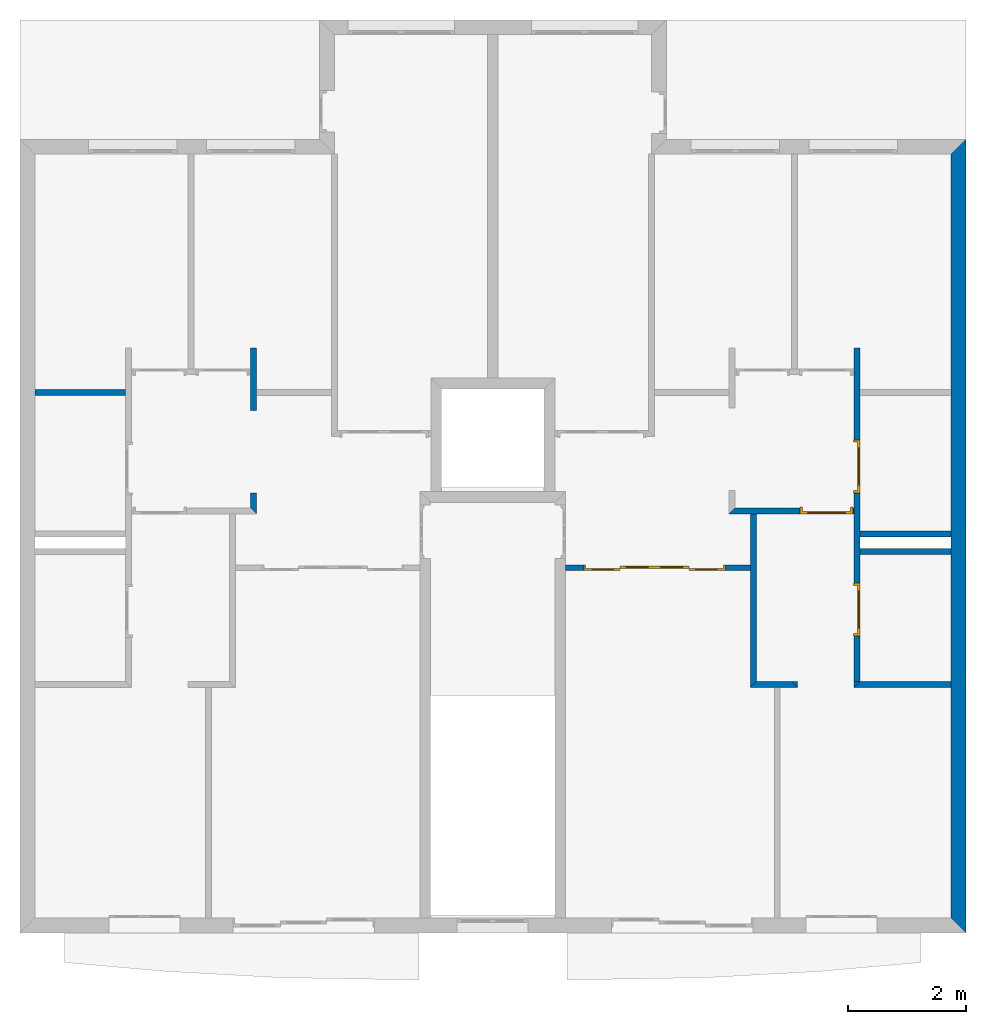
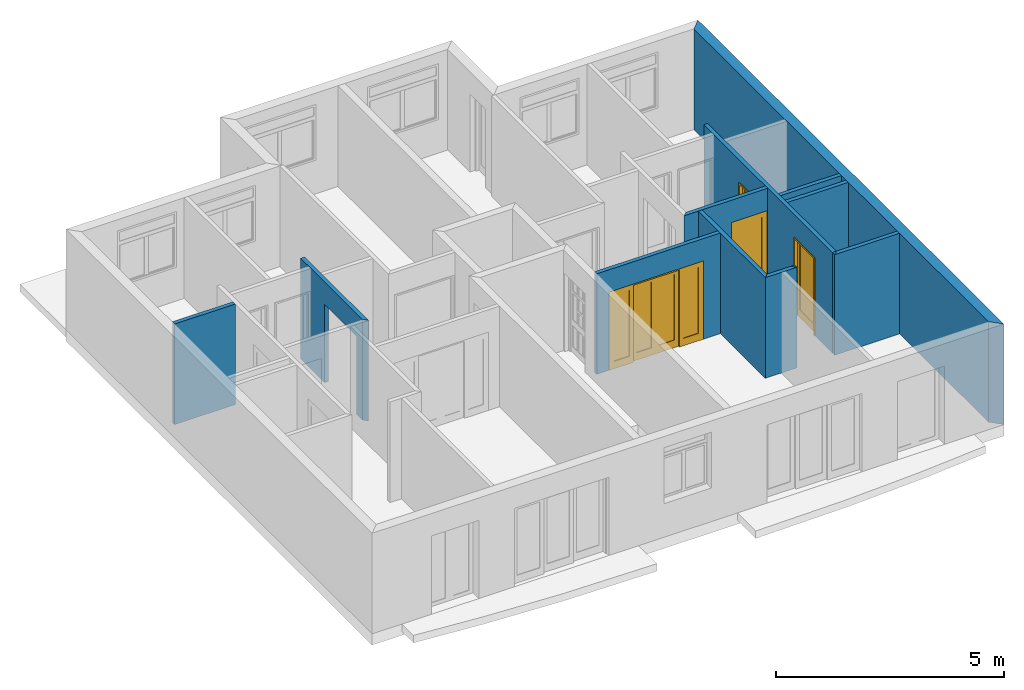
# One storey, part 8 of 12: 13 walls, 4 doors, 5 openings.
"""IFC2X3 building model written with IfcOpenShell, lengths in metres."""

from ifc_helpers import new_model, entity, si_unit, converted_unit, direction, frame, frame_2d, origin_with_axes, place, context, project, spatial, polyline, rectangle, outline, extrude, faceted_brep, source, transform, mapped, material, layer, layer_set, layer_usage, type_object, element, fill, save


model = new_model("IFC2X3")

# Units and contexts
context_of_model = context(None, 3, precision=1e-05, world=origin_with_axes(), true_north=direction((6.123234e-17, 1.0)))
plan_context = context("Plan", 3, precision=1e-05, world=origin_with_axes(), true_north=direction((6.123234e-17, 1.0)))
model_context = context("Model", 3, precision=1e-05, world=origin_with_axes(), true_north=direction((6.123234e-17, 1.0)))
ifc_project = project(units=[si_unit("LENGTHUNIT", "METRE"), si_unit("AREAUNIT", "SQUARE_METRE"), si_unit("VOLUMEUNIT", "CUBIC_METRE"), converted_unit("PLANEANGLEUNIT", "DEGREE", entity("IfcPlaneAngleMeasure", 0.017453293), si_unit("PLANEANGLEUNIT", "RADIAN"), dimensions=[0, 0, 0, 0, 0, 0, 0]), si_unit("SOLIDANGLEUNIT", "STERADIAN"), si_unit("MASSUNIT", "GRAM"), si_unit("TIMEUNIT", "SECOND"), si_unit("THERMODYNAMICTEMPERATUREUNIT", "DEGREE_CELSIUS"), si_unit("LUMINOUSINTENSITYUNIT", "LUMEN")], contexts=[context_of_model, plan_context, model_context])

# Site, building, storey
site_placement = place(None, origin_with_axes())
site = spatial("IfcSite", under=ifc_project, at=site_placement, Name="Por defecto Sitio", CompositionType="ELEMENT")
building_placement = place(site_placement, origin_with_axes())
building = spatial("IfcBuilding", under=site, at=building_placement, Name="Por defecto Edificio", CompositionType="ELEMENT")
storey_placement = place(building_placement, frame((0.0, 0.0, 10.2), z_axis=(0.0, 0.0, 1.0), x_axis=(1.0, 0.0, 0.0)))
storey = spatial("IfcBuildingStorey", under=building, at=storey_placement, Name="Tercera", CompositionType="ELEMENT", Elevation=10.2)

# Wall
ifc_material_1 = material(Name="Doble 1:4")
ifc_layer_1 = layer(ifc_material_1, 0.25, ventilated="UNKNOWN")
ifc_layer_set_1 = layer_set([ifc_layer_1], Name="Doble 1:4")
ifc_layer_usage_1 = layer_usage(ifc_layer_set_1, "AXIS2", "NEGATIVE", 0.0)
wall_type_1 = type_object("IfcWallType", Name="Doble 1:4", PredefinedType="NOTDEFINED")
wall_1_placement = place(storey_placement, frame((16.03417, 13.449173, 0.0), z_axis=(0.0, 0.0, 1.0), x_axis=(-2.1396841e-14, -1.0, 0.0)))
element("IfcWallStandardCase", 1, at=wall_1_placement, inside=storey, type_object=wall_type_1, material=ifc_layer_usage_1, Name="Muro-017", context=context_of_model, shape_type="SweptSolid", body=[
    extrude(outline(polyline([(0.25, -0.25), (13.199173, -0.25), (13.449173, 0.0), (0.0, 0.0), (0.25, -0.25)])), origin_with_axes(), (0.0, 0.0, 1.0), 2.7),
])

# Wall, opening, door
ifc_material_2 = material(Name="Ladrillo común")
ifc_layer_2 = layer(ifc_material_2, 0.1, ventilated="UNKNOWN")
ifc_layer_set_2 = layer_set([ifc_layer_2], Name="Ladrillo común")
ifc_layer_usage_2 = layer_usage(ifc_layer_set_2, "AXIS2", "NEGATIVE", 0.05)
wall_type_2 = type_object("IfcWallType", Name="Ladrillo común", PredefinedType="NOTDEFINED")
wall_2_placement = place(storey_placement, frame((12.379835, 6.1881579, 0.0), z_axis=(0.0, 0.0, 1.0), x_axis=(-1.0, 0.0, 0.0)))
wall_2 = element("IfcWallStandardCase", 2, at=wall_2_placement, inside=storey, type_object=wall_type_2, material=ifc_layer_usage_2, Name="Muro-028", context=context_of_model, shape_type="SweptSolid", body=[
    extrude(outline(polyline([(0.0, -0.05), (3.1306649, -0.05), (3.1306649, 0.05), (0.0, 0.05), (0.0, -0.05)])), origin_with_axes(), (0.0, 0.0, 1.0), 2.7),
])
opening_1_placement = place(wall_2_placement, frame((1.6239004, -0.05, 0.0), z_axis=(0.0, 0.0, 1.0), x_axis=(1.0, 0.0, 0.0)))
opening_1 = element("IfcOpeningElement", 3, at=opening_1_placement, cuts=wall_2, ObjectType="Opening", context=model_context, shape_type="SweptSolid", body=[
    extrude(rectangle(XDim=2.4, YDim=2.1, at=frame_2d((0.0, 1.05), x_axis=(1.0, 0.0))), frame((0.0, 0.0, 0.0), z_axis=(0.0, 1.0, 0.0), x_axis=(-1.0, 0.0, 0.0)), (0.0, 0.0, 1.0), 0.1),
])
door_style_1 = type_object("IfcDoorStyle", Name="P4 Corredera 12", ConstructionType="NOTDEFINED", OperationType="DOUBLE_DOOR_SLIDING", ParameterTakesPrecedence=False, Sizeable=False)
shared_shape_1 = source(origin_with_axes(), model_context, "Body", "Brep", [
    faceted_brep([(2.368, 0.1, 0.0), (2.368, -8.8817842e-16, 0.0), (2.368, 0.0, 2.068), (2.368, 0.1, 2.068), (2.4, 0.1, 0.0), (2.4, -8.8817842e-16, 0.0), (2.4, 0.0, 2.068), (2.4, 0.1, 2.068)], [[[0, 1, 2, 3]], [[4, 5, 1, 0]], [[1, 5, 6, 2]], [[3, 2, 6, 7]], [[0, 3, 7, 4]], [[7, 6, 5, 4]]]),
    faceted_brep([(0.0, 0.1, 0.0), (0.0, 0.0, 0.0), (0.0, 0.0, 2.068), (0.0, 0.1, 2.068), (0.032, 0.1, 0.0), (0.032, 0.0, 0.0), (0.032, 0.0, 2.068), (0.032, 0.1, 2.068)], [[[0, 1, 2, 3]], [[4, 5, 1, 0]], [[1, 5, 6, 2]], [[3, 2, 6, 7]], [[0, 3, 7, 4]], [[7, 6, 5, 4]]]),
    faceted_brep([(2.4, 0.1, 2.1), (2.4, 0.0, 2.1), (2.4, 0.0, 2.068), (2.4, 0.1, 2.068), (0.0, 0.1, 2.1), (0.0, 0.0, 2.1), (0.0, 0.0, 2.068), (0.032, 0.0, 2.068), (2.368, 0.0, 2.068), (2.368, 0.1, 2.068), (0.032, 0.1, 2.068), (0.0, 0.1, 2.068)], [[[0, 1, 2, 3]], [[4, 5, 1, 0]], [[1, 5, 6, 7, 8, 2]], [[3, 2, 8, 9]], [[0, 3, 9, 10, 11, 4]], [[11, 6, 5, 4]], [[10, 7, 6, 11]], [[9, 8, 7, 10]]]),
    faceted_brep([(0.032, 0.1, 0.2), (0.132, 0.1, 0.2), (0.132, 0.06, 0.2), (0.032, 0.06, 0.2), (0.032, 0.1, 1.968), (0.132, 0.1, 1.968), (0.132, 0.06, 1.968), (0.032, 0.06, 1.968)], [[[0, 1, 2, 3]], [[0, 4, 5, 1]], [[1, 5, 6, 2]], [[3, 2, 6, 7]], [[4, 0, 3, 7]], [[5, 4, 7, 6]]]),
    faceted_brep([(0.616, 0.1, 0.2), (0.616, 0.1, 1.968), (0.616, 0.06, 1.968), (0.616, 0.06, 0.2), (0.516, 0.1, 0.2), (0.516, 0.1, 1.968), (0.516, 0.06, 1.968), (0.516, 0.06, 0.2)], [[[0, 1, 2, 3]], [[0, 4, 5, 1]], [[1, 5, 6, 2]], [[3, 2, 6, 7]], [[4, 0, 3, 7]], [[5, 4, 7, 6]]]),
    faceted_brep([(0.032, 0.1, 0.0), (0.616, 0.1, 0.0), (0.616, 0.06, 0.0), (0.032, 0.06, 0.0), (0.032, 0.1, 0.2), (0.132, 0.1, 0.2), (0.516, 0.1, 0.2), (0.616, 0.1, 0.2), (0.616, 0.06, 0.2), (0.516, 0.06, 0.2), (0.132, 0.06, 0.2), (0.032, 0.06, 0.2)], [[[0, 1, 2, 3]], [[0, 4, 5, 6, 7, 1]], [[1, 7, 8, 2]], [[3, 2, 8, 9, 10, 11]], [[4, 0, 3, 11]], [[5, 4, 11, 10]], [[6, 5, 10, 9]], [[7, 6, 9, 8]]]),
    faceted_brep([(0.032, 0.1, 2.068), (0.032, 0.1, 1.968), (0.032, 0.06, 1.968), (0.032, 0.06, 2.068), (0.616, 0.1, 2.068), (0.616, 0.1, 1.968), (0.516, 0.1, 1.968), (0.132, 0.1, 1.968), (0.132, 0.06, 1.968), (0.516, 0.06, 1.968), (0.616, 0.06, 1.968), (0.616, 0.06, 2.068)], [[[0, 1, 2, 3]], [[0, 4, 5, 6, 7, 1]], [[1, 7, 8, 2]], [[3, 2, 8, 9, 10, 11]], [[4, 0, 3, 11]], [[5, 4, 11, 10]], [[6, 5, 10, 9]], [[7, 6, 9, 8]]]),
    faceted_brep([(0.132, 0.086, 0.2), (0.516, 0.086, 0.2), (0.516, 0.074, 0.2), (0.132, 0.074, 0.2), (0.132, 0.086, 1.968), (0.516, 0.086, 1.968), (0.516, 0.074, 1.968), (0.132, 0.074, 1.968)], [[[0, 1, 2, 3]], [[0, 4, 5, 1]], [[1, 5, 6, 2]], [[3, 2, 6, 7]], [[4, 0, 3, 7]], [[5, 4, 7, 6]]]),
    faceted_brep([(2.368, 0.1, 0.2), (2.368, 0.06, 0.2), (2.268, 0.06, 0.2), (2.268, 0.1, 0.2), (2.368, 0.1, 1.968), (2.368, 0.06, 1.968), (2.268, 0.06, 1.968), (2.268, 0.1, 1.968)], [[[0, 1, 2, 3]], [[4, 5, 1, 0]], [[1, 5, 6, 2]], [[3, 2, 6, 7]], [[0, 3, 7, 4]], [[7, 6, 5, 4]]]),
    faceted_brep([(1.784, 0.1, 0.2), (1.784, 0.06, 0.2), (1.784, 0.06, 1.968), (1.784, 0.1, 1.968), (1.884, 0.1, 0.2), (1.884, 0.06, 0.2), (1.884, 0.06, 1.968), (1.884, 0.1, 1.968)], [[[0, 1, 2, 3]], [[4, 5, 1, 0]], [[1, 5, 6, 2]], [[3, 2, 6, 7]], [[0, 3, 7, 4]], [[7, 6, 5, 4]]]),
    faceted_brep([(2.368, 0.1, 0.0), (2.368, 0.06, 0.0), (1.784, 0.06, 0.0), (1.784, 0.1, 0.0), (2.368, 0.1, 0.2), (2.368, 0.06, 0.2), (2.268, 0.06, 0.2), (1.884, 0.06, 0.2), (1.784, 0.06, 0.2), (1.784, 0.1, 0.2), (1.884, 0.1, 0.2), (2.268, 0.1, 0.2)], [[[0, 1, 2, 3]], [[4, 5, 1, 0]], [[1, 5, 6, 7, 8, 2]], [[3, 2, 8, 9]], [[0, 3, 9, 10, 11, 4]], [[11, 6, 5, 4]], [[10, 7, 6, 11]], [[9, 8, 7, 10]]]),
    faceted_brep([(2.368, 0.1, 2.068), (2.368, 0.06, 2.068), (2.368, 0.06, 1.968), (2.368, 0.1, 1.968), (1.784, 0.1, 2.068), (1.784, 0.06, 2.068), (1.784, 0.06, 1.968), (1.884, 0.06, 1.968), (2.268, 0.06, 1.968), (2.268, 0.1, 1.968), (1.884, 0.1, 1.968), (1.784, 0.1, 1.968)], [[[0, 1, 2, 3]], [[4, 5, 1, 0]], [[1, 5, 6, 7, 8, 2]], [[3, 2, 8, 9]], [[0, 3, 9, 10, 11, 4]], [[11, 6, 5, 4]], [[10, 7, 6, 11]], [[9, 8, 7, 10]]]),
    faceted_brep([(2.268, 0.086, 0.2), (2.268, 0.074, 0.2), (1.884, 0.074, 0.2), (1.884, 0.086, 0.2), (2.268, 0.086, 1.968), (2.268, 0.074, 1.968), (1.884, 0.074, 1.968), (1.884, 0.086, 1.968)], [[[0, 1, 2, 3]], [[4, 5, 1, 0]], [[1, 5, 6, 2]], [[3, 2, 6, 7]], [[0, 3, 7, 4]], [[7, 6, 5, 4]]]),
    faceted_brep([(0.616, 0.06, 0.2), (0.716, 0.06, 0.2), (0.716, 0.02, 0.2), (0.616, 0.02, 0.2), (0.616, 0.06, 1.968), (0.716, 0.06, 1.968), (0.716, 0.02, 1.968), (0.616, 0.02, 1.968)], [[[0, 1, 2, 3]], [[0, 4, 5, 1]], [[1, 5, 6, 2]], [[3, 2, 6, 7]], [[4, 0, 3, 7]], [[5, 4, 7, 6]]]),
    faceted_brep([(1.2, 0.06, 0.2), (1.2, 0.06, 1.968), (1.2, 0.02, 1.968), (1.2, 0.02, 0.2), (1.1, 0.06, 0.2), (1.1, 0.06, 1.968), (1.1, 0.02, 1.968), (1.1, 0.02, 0.2)], [[[0, 1, 2, 3]], [[0, 4, 5, 1]], [[1, 5, 6, 2]], [[3, 2, 6, 7]], [[4, 0, 3, 7]], [[5, 4, 7, 6]]]),
    faceted_brep([(0.616, 0.06, 0.0), (1.2, 0.06, 0.0), (1.2, 0.02, 0.0), (0.616, 0.02, 0.0), (0.616, 0.06, 0.2), (0.716, 0.06, 0.2), (1.1, 0.06, 0.2), (1.2, 0.06, 0.2), (1.2, 0.02, 0.2), (1.1, 0.02, 0.2), (0.716, 0.02, 0.2), (0.616, 0.02, 0.2)], [[[0, 1, 2, 3]], [[0, 4, 5, 6, 7, 1]], [[1, 7, 8, 2]], [[3, 2, 8, 9, 10, 11]], [[4, 0, 3, 11]], [[5, 4, 11, 10]], [[6, 5, 10, 9]], [[7, 6, 9, 8]]]),
    faceted_brep([(0.616, 0.06, 2.068), (0.616, 0.06, 1.968), (0.616, 0.02, 1.968), (0.616, 0.02, 2.068), (1.2, 0.06, 2.068), (1.2, 0.06, 1.968), (1.1, 0.06, 1.968), (0.716, 0.06, 1.968), (0.716, 0.02, 1.968), (1.1, 0.02, 1.968), (1.2, 0.02, 1.968), (1.2, 0.02, 2.068)], [[[0, 1, 2, 3]], [[0, 4, 5, 6, 7, 1]], [[1, 7, 8, 2]], [[3, 2, 8, 9, 10, 11]], [[4, 0, 3, 11]], [[5, 4, 11, 10]], [[6, 5, 10, 9]], [[7, 6, 9, 8]]]),
    faceted_brep([(0.716, 0.046, 0.2), (1.1, 0.046, 0.2), (1.1, 0.034, 0.2), (0.716, 0.034, 0.2), (0.716, 0.046, 1.968), (1.1, 0.046, 1.968), (1.1, 0.034, 1.968), (0.716, 0.034, 1.968)], [[[0, 1, 2, 3]], [[0, 4, 5, 1]], [[1, 5, 6, 2]], [[3, 2, 6, 7]], [[4, 0, 3, 7]], [[5, 4, 7, 6]]]),
    faceted_brep([(1.784, 0.06, 0.2), (1.784, 0.02, 0.2), (1.684, 0.02, 0.2), (1.684, 0.06, 0.2), (1.784, 0.06, 1.968), (1.784, 0.02, 1.968), (1.684, 0.02, 1.968), (1.684, 0.06, 1.968)], [[[0, 1, 2, 3]], [[4, 5, 1, 0]], [[1, 5, 6, 2]], [[3, 2, 6, 7]], [[0, 3, 7, 4]], [[7, 6, 5, 4]]]),
    faceted_brep([(1.2, 0.06, 0.2), (1.2, 0.02, 0.2), (1.2, 0.02, 1.968), (1.2, 0.06, 1.968), (1.3, 0.06, 0.2), (1.3, 0.02, 0.2), (1.3, 0.02, 1.968), (1.3, 0.06, 1.968)], [[[0, 1, 2, 3]], [[4, 5, 1, 0]], [[1, 5, 6, 2]], [[3, 2, 6, 7]], [[0, 3, 7, 4]], [[7, 6, 5, 4]]]),
    faceted_brep([(1.784, 0.06, 0.0), (1.784, 0.02, 0.0), (1.2, 0.02, 0.0), (1.2, 0.06, 0.0), (1.784, 0.06, 0.2), (1.784, 0.02, 0.2), (1.684, 0.02, 0.2), (1.3, 0.02, 0.2), (1.2, 0.02, 0.2), (1.2, 0.06, 0.2), (1.3, 0.06, 0.2), (1.684, 0.06, 0.2)], [[[0, 1, 2, 3]], [[4, 5, 1, 0]], [[1, 5, 6, 7, 8, 2]], [[3, 2, 8, 9]], [[0, 3, 9, 10, 11, 4]], [[11, 6, 5, 4]], [[10, 7, 6, 11]], [[9, 8, 7, 10]]]),
    faceted_brep([(1.784, 0.06, 2.068), (1.784, 0.02, 2.068), (1.784, 0.02, 1.968), (1.784, 0.06, 1.968), (1.2, 0.06, 2.068), (1.2, 0.02, 2.068), (1.2, 0.02, 1.968), (1.3, 0.02, 1.968), (1.684, 0.02, 1.968), (1.684, 0.06, 1.968), (1.3, 0.06, 1.968), (1.2, 0.06, 1.968)], [[[0, 1, 2, 3]], [[4, 5, 1, 0]], [[1, 5, 6, 7, 8, 2]], [[3, 2, 8, 9]], [[0, 3, 9, 10, 11, 4]], [[11, 6, 5, 4]], [[10, 7, 6, 11]], [[9, 8, 7, 10]]]),
    faceted_brep([(1.684, 0.046, 0.2), (1.684, 0.034, 0.2), (1.3, 0.034, 0.2), (1.3, 0.046, 0.2), (1.684, 0.046, 1.968), (1.684, 0.034, 1.968), (1.3, 0.034, 1.968), (1.3, 0.046, 1.968)], [[[0, 1, 2, 3]], [[4, 5, 1, 0]], [[1, 5, 6, 2]], [[3, 2, 6, 7]], [[0, 3, 7, 4]], [[7, 6, 5, 4]]]),
])
door_1_placement = place(opening_1_placement, frame((-1.2, 0.0, 0.0), z_axis=(0.0, 0.0, 1.0), x_axis=(1.0, 0.0, 0.0)))
door_1 = element("IfcDoor", 4, at=door_1_placement, inside=storey, type_object=door_style_1, Name="P21", OverallHeight=2.1, OverallWidth=2.4, context=model_context, shape_type="MappedRepresentation", body=[
    mapped(shared_shape_1, transform((0.0, 0.0, 0.0), scale=1.0)),
])
fill(opening_1, door_1)

ifc_layer_usage_3 = layer_usage(ifc_layer_set_2, "AXIS2", "POSITIVE", 0.0)
wall_3_placement = place(storey_placement, frame((14.139835, 7.2022014, 0.0), z_axis=(0.0, 0.0, 1.0), x_axis=(-1.0, 0.0, 0.0)))
wall_3 = element("IfcWallStandardCase", 5, at=wall_3_placement, inside=storey, type_object=wall_type_2, material=ifc_layer_usage_3, Name="Muro-024", context=context_of_model, shape_type="SweptSolid", body=[
    extrude(outline(polyline([(0.0, 0.0), (2.02, 0.0), (2.12, 0.1), (0.0, 0.1), (0.0, 0.0)])), origin_with_axes(), (0.0, 0.0, 1.0), 2.7),
])
opening_2_placement = place(wall_3_placement, frame((0.46942735, 0.0, 0.0), z_axis=(0.0, 0.0, 1.0), x_axis=(1.0, 0.0, 0.0)))
opening_2 = element("IfcOpeningElement", 6, at=opening_2_placement, cuts=wall_3, ObjectType="Opening", context=model_context, shape_type="SweptSolid", body=[
    extrude(rectangle(XDim=0.9, YDim=2.1, at=frame_2d((0.0, 1.05), x_axis=(-1.0, 0.0))), frame((0.0, 0.0, 0.0), z_axis=(0.0, 1.0, 0.0), x_axis=(-1.0, 0.0, 0.0)), (0.0, 0.0, 1.0), 0.1),
])
door_style_2 = type_object("IfcDoorStyle", Name="P1 12", ConstructionType="NOTDEFINED", OperationType="SINGLE_SWING_RIGHT", ParameterTakesPrecedence=False, Sizeable=False)
shared_shape_2 = source(origin_with_axes(), model_context, "Body", "Brep", [
    faceted_brep([(0.04, 0.075, -2.4492936e-18), (0.04, 0.075, 2.06), (0.04, 0.0, 2.06), (0.04, 0.0, -7.0417191e-18), (0.028, 0.075, 2.06), (0.028, 0.075, -2.4492936e-18), (0.028, 0.115, 2.06), (0.0, 0.115, 2.06), (0.0, 0.0, 2.06), (0.0, 0.0, 0.0), (0.0, 0.115, 3.3744595e-33), (0.028, 0.115, 3.2707143e-33)], [[[0, 1, 2, 3]], [[4, 1, 0, 5]], [[4, 6, 7, 8, 2, 1]], [[9, 3, 2, 8]], [[5, 0, 3, 9, 10, 11]], [[6, 4, 5, 11]], [[6, 11, 10, 7]], [[8, 7, 10, 9]]]),
    faceted_brep([(0.872, 0.075, 2.06), (0.86, 0.075, 2.06), (0.86, 0.0, 2.06), (0.9, 0.0, 2.06), (0.9, 0.115, 2.06), (0.872, 0.115, 2.06), (0.872, 0.075, -2.4492936e-18), (0.86, 0.075, -2.4492936e-18), (0.86, 0.0, -7.0417191e-18), (0.9, 0.0, -7.0417191e-18), (0.9, 0.115, -3.3744595e-33), (0.872, 0.115, -3.1644931e-33)], [[[0, 1, 2, 3, 4, 5]], [[1, 0, 6, 7]], [[1, 7, 8, 2]], [[8, 9, 3, 2]], [[9, 10, 4, 3]], [[11, 5, 4, 10]], [[0, 5, 11, 6]], [[6, 11, 10, 9, 8, 7]]]),
    faceted_brep([(0.028, 0.115, 2.072), (0.028, 0.115, 2.06), (0.0, 0.115, 2.06), (0.0, 0.115, 2.1), (0.9, 0.115, 2.1), (0.9, 0.115, 2.06), (0.872, 0.115, 2.06), (0.872, 0.115, 2.072), (0.028, 0.075, 2.072), (0.028, 0.075, 2.06), (0.04, 0.075, 2.06), (0.04, 0.0, 2.06), (0.0, 0.0, 2.06), (0.0, 0.0, 2.1), (0.9, 0.0, 2.1), (0.9, 0.0, 2.06), (0.872, 0.075, 2.06), (0.86, 0.0, 2.06), (0.86, 0.075, 2.06), (0.872, 0.075, 2.072)], [[[0, 1, 2, 3, 4, 5, 6, 7]], [[1, 0, 8, 9]], [[9, 10, 11, 12, 2, 1]], [[13, 3, 2, 12]], [[14, 4, 3, 13]], [[15, 5, 4, 14]], [[16, 6, 5, 15, 17, 18]], [[7, 6, 16, 19]], [[0, 7, 19, 8]], [[16, 18, 10, 9, 8, 19]], [[10, 18, 17, 11]], [[14, 13, 12, 11, 17, 15]]]),
    faceted_brep([(0.872, 0.115, 0.2), (0.872, 0.075, 0.2), (0.772, 0.075, 0.2), (0.772, 0.115, 0.2), (0.872, 0.115, 1.972), (0.872, 0.075, 1.972), (0.772, 0.075, 1.972), (0.772, 0.115, 1.972)], [[[0, 1, 2, 3]], [[4, 5, 1, 0]], [[1, 5, 6, 2]], [[3, 2, 6, 7]], [[0, 3, 7, 4]], [[7, 6, 5, 4]]]),
    faceted_brep([(0.028, 0.115, 0.2), (0.028, 0.075, 0.2), (0.028, 0.075, 1.972), (0.028, 0.115, 1.972), (0.128, 0.115, 0.2), (0.128, 0.075, 0.2), (0.128, 0.075, 1.972), (0.128, 0.115, 1.972)], [[[0, 1, 2, 3]], [[4, 5, 1, 0]], [[1, 5, 6, 2]], [[3, 2, 6, 7]], [[0, 3, 7, 4]], [[7, 6, 5, 4]]]),
    faceted_brep([(0.872, 0.115, -3.1644931e-33), (0.872, 0.075, -2.4492936e-18), (0.028, 0.075, -2.4492936e-18), (0.028, 0.115, 3.1644931e-33), (0.872, 0.115, 0.2), (0.872, 0.075, 0.2), (0.772, 0.075, 0.2), (0.128, 0.075, 0.2), (0.028, 0.075, 0.2), (0.028, 0.115, 0.2), (0.128, 0.115, 0.2), (0.772, 0.115, 0.2)], [[[0, 1, 2, 3]], [[4, 5, 1, 0]], [[1, 5, 6, 7, 8, 2]], [[3, 2, 8, 9]], [[0, 3, 9, 10, 11, 4]], [[11, 6, 5, 4]], [[10, 7, 6, 11]], [[9, 8, 7, 10]]]),
    faceted_brep([(0.872, 0.115, 2.072), (0.872, 0.075, 2.072), (0.872, 0.075, 1.972), (0.872, 0.115, 1.972), (0.028, 0.115, 2.072), (0.028, 0.075, 2.072), (0.028, 0.075, 1.972), (0.128, 0.075, 1.972), (0.772, 0.075, 1.972), (0.772, 0.115, 1.972), (0.128, 0.115, 1.972), (0.028, 0.115, 1.972)], [[[0, 1, 2, 3]], [[4, 5, 1, 0]], [[1, 5, 6, 7, 8, 2]], [[3, 2, 8, 9]], [[0, 3, 9, 10, 11, 4]], [[11, 6, 5, 4]], [[10, 7, 6, 11]], [[9, 8, 7, 10]]]),
    faceted_brep([(0.772, 0.101, 0.2), (0.772, 0.089, 0.2), (0.128, 0.089, 0.2), (0.128, 0.101, 0.2), (0.772, 0.101, 1.972), (0.772, 0.089, 1.972), (0.128, 0.089, 1.972), (0.128, 0.101, 1.972)], [[[0, 1, 2, 3]], [[4, 5, 1, 0]], [[1, 5, 6, 2]], [[3, 2, 6, 7]], [[0, 3, 7, 4]], [[7, 6, 5, 4]]]),
])
door_2_placement = place(opening_2_placement, frame((-0.45, -0.015, 0.0), z_axis=(0.0, 0.0, 1.0), x_axis=(1.0, 0.0, 0.0)))
door_2 = element("IfcDoor", 7, at=door_2_placement, inside=storey, type_object=door_style_2, Name="P18", OverallHeight=2.1, OverallWidth=0.9, context=model_context, shape_type="MappedRepresentation", body=[
    mapped(shared_shape_2, transform((0.0, 0.0, 0.0), scale=1.0)),
])
fill(opening_2, door_2)

# Walls
ifc_layer_usage_4 = layer_usage(ifc_layer_set_2, "AXIS2", "NEGATIVE", 0.0)
wall_4_placement = place(storey_placement, frame((12.379835, 4.1588613, 0.0), z_axis=(0.0, 0.0, 1.0), x_axis=(0.0, 1.0, 0.0)))
element("IfcWallStandardCase", 8, at=wall_4_placement, inside=storey, type_object=wall_type_2, material=ifc_layer_usage_4, Name="Muro-021", context=context_of_model, shape_type="SweptSolid", body=[
    extrude(outline(polyline([(0.1, -0.1), (2.9433401, -0.1), (2.9433401, 0.0), (0.0, 0.0), (0.1, -0.1)])), origin_with_axes(), (0.0, 0.0, 1.0), 2.7),
])
ifc_layer_usage_5 = layer_usage(ifc_layer_set_2, "AXIS2", "POSITIVE", 0.0)
wall_5_placement = place(storey_placement, frame((13.179835, 4.1588613, 0.0), z_axis=(0.0, 0.0, 1.0), x_axis=(0.0, 1.0, 0.0)))
element("IfcWallStandardCase", 9, at=wall_5_placement, inside=storey, type_object=wall_type_2, material=ifc_layer_usage_5, Name="Muro-023", context=context_of_model, shape_type="SweptSolid", body=[
    extrude(outline(polyline([(0.0, 0.0), (0.1, 0.0), (0.1, 0.1), (0.1, 0.1), (0.0, 0.0)])), origin_with_axes(), (0.0, 0.0, 1.0), 2.7),
])
ifc_layer_usage_6 = layer_usage(ifc_layer_set_2, "AXIS2", "POSITIVE", 0.0)
wall_6_placement = place(storey_placement, frame((14.139835, 4.2588613, 0.0), z_axis=(0.0, 0.0, 1.0), x_axis=(0.0, -1.0, 0.0)))
element("IfcWallStandardCase", 10, at=wall_6_placement, inside=storey, type_object=wall_type_2, material=ifc_layer_usage_6, Name="Muro-034", context=context_of_model, shape_type="SweptSolid", body=[
    extrude(outline(polyline([(0.0, 0.0), (0.1, 0.0), (0.0, 0.1), (0.0, 0.1), (0.0, 0.0)])), origin_with_axes(), (0.0, 0.0, 1.0), 2.7),
])

# Wall, openings, doors
ifc_layer_usage_7 = layer_usage(ifc_layer_set_2, "AXIS2", "POSITIVE", 0.0)
wall_7_placement = place(storey_placement, frame((14.139835, 9.9109196, 0.0), z_axis=(0.0, 0.0, 1.0), x_axis=(0.0, -1.0, 0.0)))
wall_7 = element("IfcWallStandardCase", 11, at=wall_7_placement, inside=storey, type_object=wall_type_2, material=ifc_layer_usage_7, Name="Muro-034", context=context_of_model, shape_type="SweptSolid", body=[
    extrude(outline(polyline([(0.0, 0.0), (5.6520584, 0.0), (5.6520584, 0.1), (0.0, 0.1), (0.0, 0.0)])), origin_with_axes(), (0.0, 0.0, 1.0), 2.7),
])
opening_3_placement = place(wall_7_placement, frame((4.4313728, 0.0, 0.0), z_axis=(0.0, 0.0, 1.0), x_axis=(1.0, 0.0, 0.0)))
opening_3 = element("IfcOpeningElement", 12, at=opening_3_placement, cuts=wall_7, ObjectType="Opening", context=model_context, shape_type="SweptSolid", body=[
    extrude(rectangle(XDim=0.9, YDim=2.1, at=frame_2d((0.0, 1.05), x_axis=(-1.0, 0.0))), frame((0.0, 0.0, 0.0), z_axis=(0.0, 1.0, 0.0), x_axis=(-1.0, 0.0, 0.0)), (0.0, 0.0, 1.0), 0.1),
])
opening_4_placement = place(wall_7_placement, frame((2.0054523, 0.0, 0.0), z_axis=(0.0, 0.0, 1.0), x_axis=(1.0, 0.0, 0.0)))
opening_4 = element("IfcOpeningElement", 13, at=opening_4_placement, cuts=wall_7, ObjectType="Opening", context=model_context, shape_type="SweptSolid", body=[
    extrude(rectangle(XDim=0.9, YDim=2.1, at=frame_2d((-4.4408921e-16, 1.05), x_axis=(-1.0, 0.0))), frame((0.0, 0.0, 0.0), z_axis=(0.0, 1.0, 0.0), x_axis=(-1.0, 0.0, 0.0)), (0.0, 0.0, 1.0), 0.1),
])
door_style_3 = type_object("IfcDoorStyle", Name="P1 12", ConstructionType="NOTDEFINED", OperationType="SINGLE_SWING_RIGHT", ParameterTakesPrecedence=False, Sizeable=False)
door_3_placement = place(opening_3_placement, frame((-0.45, -0.015, 0.0), z_axis=(0.0, 0.0, 1.0), x_axis=(1.0, 0.0, 0.0)))
door_3 = element("IfcDoor", 14, at=door_3_placement, inside=storey, type_object=door_style_3, Name="P19", OverallHeight=2.1, OverallWidth=0.9, context=model_context, shape_type="MappedRepresentation", body=[
    mapped(shared_shape_2, transform((0.0, 0.0, 0.0), scale=1.0)),
])
fill(opening_3, door_3)
door_style_4 = type_object("IfcDoorStyle", Name="P1 12", ConstructionType="NOTDEFINED", OperationType="SINGLE_SWING_LEFT", ParameterTakesPrecedence=False, Sizeable=False)
shared_shape_3 = source(origin_with_axes(), model_context, "Body", "Brep", [
    faceted_brep([(0.86, 0.075, 0.0), (0.86, 0.0, 0.0), (0.86, 0.0, 2.06), (0.86, 0.075, 2.06), (0.872, 0.075, 0.0), (0.872, 0.115, 0.0), (0.9, 0.115, 0.0), (0.9, 0.0, 0.0), (0.9, 0.0, 2.06), (0.872, 0.075, 2.06), (0.9, 0.115, 2.06), (0.872, 0.115, 2.06)], [[[0, 1, 2, 3]], [[4, 5, 6, 7, 1, 0]], [[7, 8, 2, 1]], [[9, 3, 2, 8, 10, 11]], [[9, 4, 0, 3]], [[11, 5, 4, 9]], [[11, 10, 6, 5]], [[8, 7, 6, 10]]]),
    faceted_brep([(0.028, 0.075, 2.06), (0.028, 0.115, 2.06), (-4.4408921e-16, 0.115, 2.06), (-4.4408921e-16, 0.0, 2.06), (0.04, 0.0, 2.06), (0.04, 0.075, 2.06), (0.028, 0.075, 0.0), (0.028, 0.115, 0.0), (-4.4408921e-16, 0.115, 0.0), (0.0, 0.0, 0.0), (0.04, 0.0, 0.0), (0.04, 0.075, 0.0)], [[[0, 1, 2, 3, 4, 5]], [[0, 6, 7, 1]], [[7, 8, 2, 1]], [[9, 3, 2, 8]], [[10, 4, 3, 9]], [[5, 4, 10, 11]], [[5, 11, 6, 0]], [[6, 11, 10, 9, 8, 7]]]),
    faceted_brep([(0.872, 0.115, 2.072), (0.028, 0.115, 2.072), (0.028, 0.115, 2.06), (-4.4408921e-16, 0.115, 2.06), (-4.4408921e-16, 0.115, 2.1), (0.9, 0.115, 2.1), (0.9, 0.115, 2.06), (0.872, 0.115, 2.06), (0.872, 0.075, 2.072), (0.028, 0.075, 2.072), (0.028, 0.075, 2.06), (0.04, 0.075, 2.06), (0.04, 0.0, 2.06), (-4.4408921e-16, 0.0, 2.06), (-4.4408921e-16, 0.0, 2.1), (0.9, 0.0, 2.1), (0.9, 0.0, 2.06), (0.872, 0.075, 2.06), (0.86, 0.0, 2.06), (0.86, 0.075, 2.06)], [[[0, 1, 2, 3, 4, 5, 6, 7]], [[0, 8, 9, 1]], [[1, 9, 10, 2]], [[10, 11, 12, 13, 3, 2]], [[13, 14, 4, 3]], [[14, 15, 5, 4]], [[15, 16, 6, 5]], [[17, 7, 6, 16, 18, 19]], [[7, 17, 8, 0]], [[10, 9, 8, 17, 19, 11]], [[19, 18, 12, 11]], [[14, 13, 12, 18, 16, 15]]]),
    faceted_brep([(0.028, 0.115, 0.2), (0.128, 0.115, 0.2), (0.128, 0.075, 0.2), (0.028, 0.075, 0.2), (0.028, 0.115, 1.972), (0.128, 0.115, 1.972), (0.128, 0.075, 1.972), (0.028, 0.075, 1.972)], [[[0, 1, 2, 3]], [[0, 4, 5, 1]], [[1, 5, 6, 2]], [[3, 2, 6, 7]], [[4, 0, 3, 7]], [[5, 4, 7, 6]]]),
    faceted_brep([(0.872, 0.115, 0.2), (0.872, 0.115, 1.972), (0.872, 0.075, 1.972), (0.872, 0.075, 0.2), (0.772, 0.115, 0.2), (0.772, 0.115, 1.972), (0.772, 0.075, 1.972), (0.772, 0.075, 0.2)], [[[0, 1, 2, 3]], [[0, 4, 5, 1]], [[1, 5, 6, 2]], [[3, 2, 6, 7]], [[4, 0, 3, 7]], [[5, 4, 7, 6]]]),
    faceted_brep([(0.028, 0.115, 0.0), (0.872, 0.115, 0.0), (0.872, 0.075, 0.0), (0.028, 0.075, 0.0), (0.028, 0.115, 0.2), (0.128, 0.115, 0.2), (0.772, 0.115, 0.2), (0.872, 0.115, 0.2), (0.872, 0.075, 0.2), (0.772, 0.075, 0.2), (0.128, 0.075, 0.2), (0.028, 0.075, 0.2)], [[[0, 1, 2, 3]], [[0, 4, 5, 6, 7, 1]], [[1, 7, 8, 2]], [[3, 2, 8, 9, 10, 11]], [[4, 0, 3, 11]], [[5, 4, 11, 10]], [[6, 5, 10, 9]], [[7, 6, 9, 8]]]),
    faceted_brep([(0.028, 0.115, 2.072), (0.028, 0.115, 1.972), (0.028, 0.075, 1.972), (0.028, 0.075, 2.072), (0.872, 0.115, 2.072), (0.872, 0.115, 1.972), (0.772, 0.115, 1.972), (0.128, 0.115, 1.972), (0.128, 0.075, 1.972), (0.772, 0.075, 1.972), (0.872, 0.075, 1.972), (0.872, 0.075, 2.072)], [[[0, 1, 2, 3]], [[0, 4, 5, 6, 7, 1]], [[1, 7, 8, 2]], [[3, 2, 8, 9, 10, 11]], [[4, 0, 3, 11]], [[5, 4, 11, 10]], [[6, 5, 10, 9]], [[7, 6, 9, 8]]]),
    faceted_brep([(0.128, 0.101, 0.2), (0.772, 0.101, 0.2), (0.772, 0.089, 0.2), (0.128, 0.089, 0.2), (0.128, 0.101, 1.972), (0.772, 0.101, 1.972), (0.772, 0.089, 1.972), (0.128, 0.089, 1.972)], [[[0, 1, 2, 3]], [[0, 4, 5, 1]], [[1, 5, 6, 2]], [[3, 2, 6, 7]], [[4, 0, 3, 7]], [[5, 4, 7, 6]]]),
])
door_4_placement = place(opening_4_placement, frame((-0.45, -0.015, 0.0), z_axis=(0.0, 0.0, 1.0), x_axis=(1.0, 0.0, 0.0)))
door_4 = element("IfcDoor", 15, at=door_4_placement, inside=storey, type_object=door_style_4, Name="P20", OverallHeight=2.1, OverallWidth=0.9, context=model_context, shape_type="MappedRepresentation", body=[
    mapped(shared_shape_3, transform((0.0, 0.0, 0.0), scale=1.0)),
])
fill(opening_4, door_4)

# Walls
ifc_layer_usage_8 = layer_usage(ifc_layer_set_2, "AXIS2", "NEGATIVE", 0.0)
wall_8_placement = place(storey_placement, frame((13.179835, 4.1588613, 0.0), z_axis=(0.0, 0.0, 1.0), x_axis=(-1.0, 0.0, 0.0)))
element("IfcWallStandardCase", 16, at=wall_8_placement, inside=storey, type_object=wall_type_2, material=ifc_layer_usage_8, Name="Muro-020", context=context_of_model, shape_type="SweptSolid", body=[
    extrude(outline(polyline([(0.1, -0.1), (0.7, -0.1), (0.8, 0.0), (0.0, 0.0), (0.1, -0.1)])), origin_with_axes(), (0.0, 0.0, 1.0), 2.7),
])
ifc_layer_usage_9 = layer_usage(ifc_layer_set_2, "AXIS2", "POSITIVE", 0.0)
wall_9_placement = place(storey_placement, frame((1.8901652, 9.2109196, 0.0), z_axis=(0.0, 0.0, 1.0), x_axis=(-1.0, 0.0, 0.0)))
element("IfcWallStandardCase", 17, at=wall_9_placement, inside=storey, type_object=wall_type_2, material=ifc_layer_usage_9, Name="Muro-037", context=context_of_model, shape_type="SweptSolid", body=[
    extrude(outline(polyline([(0.1, 0.0), (1.6401652, 0.0), (1.6401652, 0.1), (0.1, 0.1), (0.1, 0.0)])), origin_with_axes(), (0.0, 0.0, 1.0), 2.7),
])
ifc_layer_usage_10 = layer_usage(ifc_layer_set_2, "AXIS2", "POSITIVE", 0.0)
wall_10_placement = place(storey_placement, frame((14.139835, 6.4112172, 0.0), z_axis=(0.0, 0.0, 1.0), x_axis=(1.0, 0.0, 0.0)))
element("IfcWallStandardCase", 18, at=wall_10_placement, inside=storey, type_object=wall_type_2, material=ifc_layer_usage_10, Name="Muro-036", context=context_of_model, shape_type="SweptSolid", body=[
    extrude(outline(polyline([(0.1, 0.0), (1.6443351, 0.0), (1.6443351, 0.1), (0.1, 0.1), (0.1, 0.0)])), origin_with_axes(), (0.0, 0.0, 1.0), 2.7),
])
ifc_layer_usage_11 = layer_usage(ifc_layer_set_2, "AXIS2", "NEGATIVE", 0.0)
wall_11_placement = place(storey_placement, frame((14.139835, 6.8112172, 0.0), z_axis=(0.0, 0.0, 1.0), x_axis=(1.0, 0.0, 0.0)))
element("IfcWallStandardCase", 19, at=wall_11_placement, inside=storey, type_object=wall_type_2, material=ifc_layer_usage_11, Name="Muro-035", context=context_of_model, shape_type="SweptSolid", body=[
    extrude(outline(polyline([(0.1, -0.1), (1.6443351, -0.1), (1.6443351, 0.0), (0.1, 0.0), (0.1, -0.1)])), origin_with_axes(), (0.0, 0.0, 1.0), 2.7),
])
ifc_layer_usage_12 = layer_usage(ifc_layer_set_2, "AXIS2", "NEGATIVE", 0.0)
wall_12_placement = place(storey_placement, frame((16.03417, 4.1588613, 0.0), z_axis=(0.0, 0.0, 1.0), x_axis=(-1.0, 0.0, 0.0)))
element("IfcWallStandardCase", 20, at=wall_12_placement, inside=storey, type_object=wall_type_2, material=ifc_layer_usage_12, Name="Muro-020", context=context_of_model, shape_type="SweptSolid", body=[
    extrude(outline(polyline([(0.25, -0.1), (1.7943351, -0.1), (1.8943351, 0.0), (0.25, 0.0), (0.25, -0.1)])), origin_with_axes(), (0.0, 0.0, 1.0), 2.7),
])

# Wall, opening
ifc_layer_usage_13 = layer_usage(ifc_layer_set_2, "AXIS2", "NEGATIVE", 0.0)
wall_13_placement = place(storey_placement, frame((3.9101652, 7.2022014, 0.0), z_axis=(0.0, 0.0, 1.0), x_axis=(0.0, 1.0, 0.0)))
wall_13 = element("IfcWallStandardCase", 21, at=wall_13_placement, inside=storey, type_object=wall_type_2, material=ifc_layer_usage_13, Name="Muro-025", context=context_of_model, shape_type="SweptSolid", body=[
    extrude(outline(polyline([(-0.1, -0.1), (2.7087182, -0.1), (2.7087182, 4.4408921e-16), (0.0, 4.4408921e-16), (-0.1, -0.1)])), origin_with_axes(), (0.0, 0.0, 1.0), 2.7),
])
opening_5_placement = place(wall_13_placement, frame((0.95237166, -0.1, 0.0), z_axis=(0.0, 0.0, 1.0), x_axis=(1.0, 0.0, 0.0)))
element("IfcOpeningElement", 22, at=opening_5_placement, inside=storey, cuts=wall_13, ObjectType="Opening", context=model_context, shape_type="SweptSolid", body=[
    extrude(rectangle(XDim=1.4, YDim=2.1, at=frame_2d((4.4408921e-16, 1.05), x_axis=(-1.0, 0.0))), frame((0.0, 0.0, 0.0), z_axis=(0.0, 1.0, 0.0), x_axis=(-1.0, 0.0, 0.0)), (0.0, 0.0, 1.0), 0.1),
])

save(model, "model.ifc")
